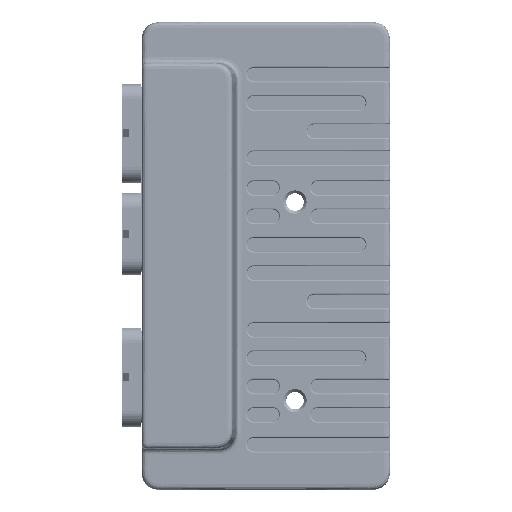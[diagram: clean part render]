
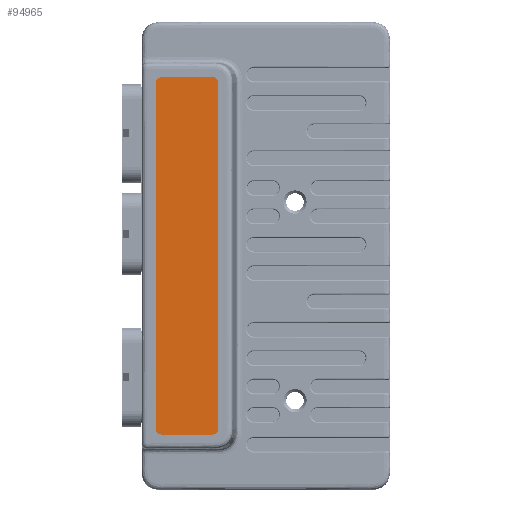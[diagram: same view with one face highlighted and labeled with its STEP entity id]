
A CAD part, top view. The second image highlights one B-rep face of the part: STEP entity #94965.
In plain terms, the highlighted planar face has unit normal (0, 0, 1).
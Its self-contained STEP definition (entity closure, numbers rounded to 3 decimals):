
#165 = FACE_OUTER_BOUND ( 'NONE', #112715, .T. ) ;
#2028 = DIRECTION ( 'NONE',  ( 1., 0., 0. ) ) ;
#2696 = VERTEX_POINT ( 'NONE', #31025 ) ;
#4287 = CARTESIAN_POINT ( 'NONE',  ( 15.995, 79., 30.5 ) ) ;
#6680 = EDGE_CURVE ( 'NONE', #13160, #90125, #75120, .T. ) ;
#6695 = VERTEX_POINT ( 'NONE', #20586 ) ;
#8732 = EDGE_CURVE ( 'NONE', #17261, #81449, #115923, .T. ) ;
#12785 = CIRCLE ( 'NONE', #45670, 2. ) ;
#13160 = VERTEX_POINT ( 'NONE', #4287 ) ;
#17062 = DIRECTION ( 'NONE',  ( 0., 0., 1. ) ) ;
#17259 = CARTESIAN_POINT ( 'NONE',  ( 17.995, 77., 30.5 ) ) ;
#17261 = VERTEX_POINT ( 'NONE', #31734 ) ;
#17656 = PLANE ( 'NONE',  #34236 ) ;
#18214 = VERTEX_POINT ( 'NONE', #60790 ) ;
#19004 = EDGE_CURVE ( 'NONE', #2696, #13160, #61376, .T. ) ;
#20586 = CARTESIAN_POINT ( 'NONE',  ( 17.995, -45., 30.5 ) ) ;
#21955 = VECTOR ( 'NONE', #28159, 1000. ) ;
#26797 = EDGE_CURVE ( 'NONE', #81449, #67810, #104316, .T. ) ;
#27804 = ORIENTED_EDGE ( 'NONE', *, *, #54015, .T. ) ;
#28159 = DIRECTION ( 'NONE',  ( 0., 1., 0. ) ) ;
#29478 = ORIENTED_EDGE ( 'NONE', *, *, #8732, .T. ) ;
#31025 = CARTESIAN_POINT ( 'NONE',  ( 17.995, 77., 30.5 ) ) ;
#31734 = CARTESIAN_POINT ( 'NONE',  ( -4.1, 77., 30.5 ) ) ;
#34236 = AXIS2_PLACEMENT_3D ( 'NONE', #34716, #17062, #46143 ) ;
#34716 = CARTESIAN_POINT ( 'NONE',  ( -2.1, -45., 30.5 ) ) ;
#34908 = DIRECTION ( 'NONE',  ( 1., 0., 0. ) ) ;
#37263 = CARTESIAN_POINT ( 'NONE',  ( -2.1, -45., 30.5 ) ) ;
#41561 = VECTOR ( 'NONE', #90458, 1000. ) ;
#43033 = ORIENTED_EDGE ( 'NONE', *, *, #91978, .T. ) ;
#45670 = AXIS2_PLACEMENT_3D ( 'NONE', #49836, #57696, #2028 ) ;
#46143 = DIRECTION ( 'NONE',  ( 1., 0., 0. ) ) ;
#49836 = CARTESIAN_POINT ( 'NONE',  ( 15.995, -45., 30.5 ) ) ;
#54015 = EDGE_CURVE ( 'NONE', #67810, #18214, #69320, .T. ) ;
#54684 = CIRCLE ( 'NONE', #112649, 2. ) ;
#55902 = EDGE_CURVE ( 'NONE', #90125, #17261, #54684, .T. ) ;
#57446 = DIRECTION ( 'NONE',  ( 0., 0., 1. ) ) ;
#57696 = DIRECTION ( 'NONE',  ( 0., 0., 1. ) ) ;
#60790 = CARTESIAN_POINT ( 'NONE',  ( 15.995, -47., 30.5 ) ) ;
#61376 = CIRCLE ( 'NONE', #82655, 2. ) ;
#62058 = CARTESIAN_POINT ( 'NONE',  ( -4.1, 77., 30.5 ) ) ;
#62714 = LINE ( 'NONE', #17259, #21955 ) ;
#64134 = ORIENTED_EDGE ( 'NONE', *, *, #26797, .T. ) ;
#64820 = DIRECTION ( 'NONE',  ( -1., 0., 0. ) ) ;
#67810 = VERTEX_POINT ( 'NONE', #103942 ) ;
#68803 = EDGE_CURVE ( 'NONE', #18214, #6695, #12785, .T. ) ;
#69320 = LINE ( 'NONE', #106208, #100683 ) ;
#73562 = VECTOR ( 'NONE', #64820, 1000. ) ;
#74380 = ORIENTED_EDGE ( 'NONE', *, *, #68803, .T. ) ;
#75120 = LINE ( 'NONE', #83624, #73562 ) ;
#77841 = DIRECTION ( 'NONE',  ( 1., 0., 0. ) ) ;
#81449 = VERTEX_POINT ( 'NONE', #89496 ) ;
#82655 = AXIS2_PLACEMENT_3D ( 'NONE', #91543, #107328, #90932 ) ;
#83624 = CARTESIAN_POINT ( 'NONE',  ( -2.1, 79., 30.5 ) ) ;
#87298 = ORIENTED_EDGE ( 'NONE', *, *, #19004, .T. ) ;
#89496 = CARTESIAN_POINT ( 'NONE',  ( -4.1, -45., 30.5 ) ) ;
#90125 = VERTEX_POINT ( 'NONE', #108210 ) ;
#90458 = DIRECTION ( 'NONE',  ( 0., -1., 0. ) ) ;
#90518 = DIRECTION ( 'NONE',  ( 0., 0., 1. ) ) ;
#90932 = DIRECTION ( 'NONE',  ( -1., 0., 0. ) ) ;
#91543 = CARTESIAN_POINT ( 'NONE',  ( 15.995, 77., 30.5 ) ) ;
#91978 = EDGE_CURVE ( 'NONE', #6695, #2696, #62714, .T. ) ;
#94298 = DIRECTION ( 'NONE',  ( 1., 0., 0. ) ) ;
#94965 = ADVANCED_FACE ( 'NONE', ( #165 ), #17656, .T. ) ;
#100683 = VECTOR ( 'NONE', #77841, 1000. ) ;
#100825 = ORIENTED_EDGE ( 'NONE', *, *, #6680, .T. ) ;
#100960 = ORIENTED_EDGE ( 'NONE', *, *, #55902, .T. ) ;
#102188 = CARTESIAN_POINT ( 'NONE',  ( -2.1, 77., 30.5 ) ) ;
#103942 = CARTESIAN_POINT ( 'NONE',  ( -2.1, -47., 30.5 ) ) ;
#104316 = CIRCLE ( 'NONE', #108206, 2. ) ;
#106208 = CARTESIAN_POINT ( 'NONE',  ( -2.1, -47., 30.5 ) ) ;
#107328 = DIRECTION ( 'NONE',  ( 0., 0., 1. ) ) ;
#108206 = AXIS2_PLACEMENT_3D ( 'NONE', #37263, #90518, #34908 ) ;
#108210 = CARTESIAN_POINT ( 'NONE',  ( -2.1, 79., 30.5 ) ) ;
#112649 = AXIS2_PLACEMENT_3D ( 'NONE', #102188, #57446, #94298 ) ;
#112715 = EDGE_LOOP ( 'NONE', ( #64134, #27804, #74380, #43033, #87298, #100825, #100960, #29478 ) ) ;
#115923 = LINE ( 'NONE', #62058, #41561 ) ;
